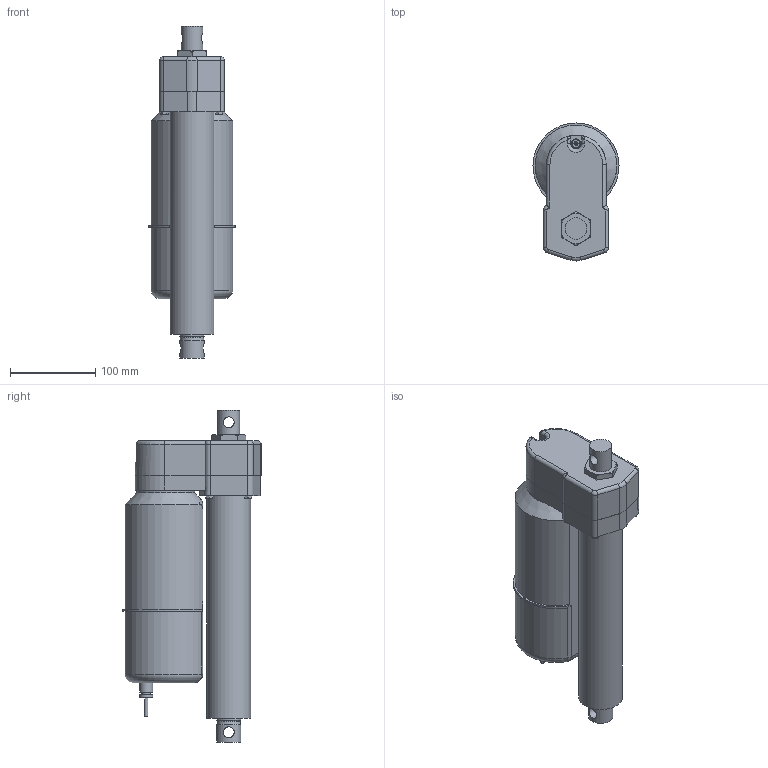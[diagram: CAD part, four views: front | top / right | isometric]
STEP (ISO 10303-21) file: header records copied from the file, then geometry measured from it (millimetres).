
FILE_DESCRIPTION (( 'STEP AP214' ), '1' );
FILE_NAME ('A22-05A5-08M0N-tollo.step', '2020-04-05T11:58:53', ( '' ), ( '' ), 'SwSTEP 2.0', 'SolidWorks 2010', '' );
FILE_SCHEMA (( 'AUTOMOTIVE_DESIGN' ));
Length unit declared in the file: millimetre
Products named in the file (7): Electrak-LA5-Motor-A22-05A5-08M0N-tollo_Electrak-LA5-Motor-A22-05A5-08M0N-tollo; Electrak-LA5-Rear-A22-05A5-08M0N-tollo_Electrak-LA5-Rear-A22-05A5-08M0N-tollo; Electrak-LA5-Tube-A22-05A5-08M0N-tollo_Electrak-LA5-Tube-A22-05A5-08M0N-tollo; Electrak-LA5-Rod-A22-05A5-08M0N-tollo_Electrak-LA5-Rod-A22-05A5-08M0N-tollo; Screw-MFX-H-M5-A22-05A5-08M0N-tollo_Screw-MFX-H-M5-A22-05A5-08M0N-tollo; Screw-M6S-M5-A22-05A5-08M0N-tollo_Screw-M6S-M5-A22-05A5-08M0N-tollo; A22-05A5-08M0N-tollo
Assembly tree (9 placements, depth 2):
  A22-05A5-08M0N-tollo
    Electrak-LA5-Tube-A22-05A5-08M0N-tollo_Electrak-LA5-Tube-A22-05A5-08M0N-tollo
    Electrak-LA5-Rod-A22-05A5-08M0N-tollo_Electrak-LA5-Rod-A22-05A5-08M0N-tollo
    Screw-M6S-M5-A22-05A5-08M0N-tollo_Screw-M6S-M5-A22-05A5-08M0N-tollo  x4
    Screw-MFX-H-M5-A22-05A5-08M0N-tollo_Screw-MFX-H-M5-A22-05A5-08M0N-tollo
    Electrak-LA5-Motor-A22-05A5-08M0N-tollo_Electrak-LA5-Motor-A22-05A5-08M0N-tollo
    Electrak-LA5-Rear-A22-05A5-08M0N-tollo_Electrak-LA5-Rear-A22-05A5-08M0N-tollo
Bounding box: 100.99 x 162.5 x 389.8 mm (x, y, z)
Volume: 2718057.1 mm3; surface area: 240417.1 mm2
Topology: 9 solids, 9 shells, 238 faces, 549 edges, 347 vertices
Faces by surface type: plane 95, cylinder 92, cone 31, torus 15, bspline 3, sphere 2
Full cylindrical faces by diameter (mm): 4 x1, 4.126 x5, 4.8 x2, 5 x13, 7.878 x4, 9.3 x1, 10 x1, 12.8 x2, 15 x2, 25.4 x1, 28.6 x4, 51.3 x1, 68 x1
Entity records: 5776 total; most frequent: CARTESIAN_POINT 1721, DIRECTION 806, ORIENTED_EDGE 666, AXIS2_PLACEMENT_3D 339, EDGE_CURVE 333, EDGE_LOOP 245, VERTEX_POINT 236, FACE_OUTER_BOUND 198
